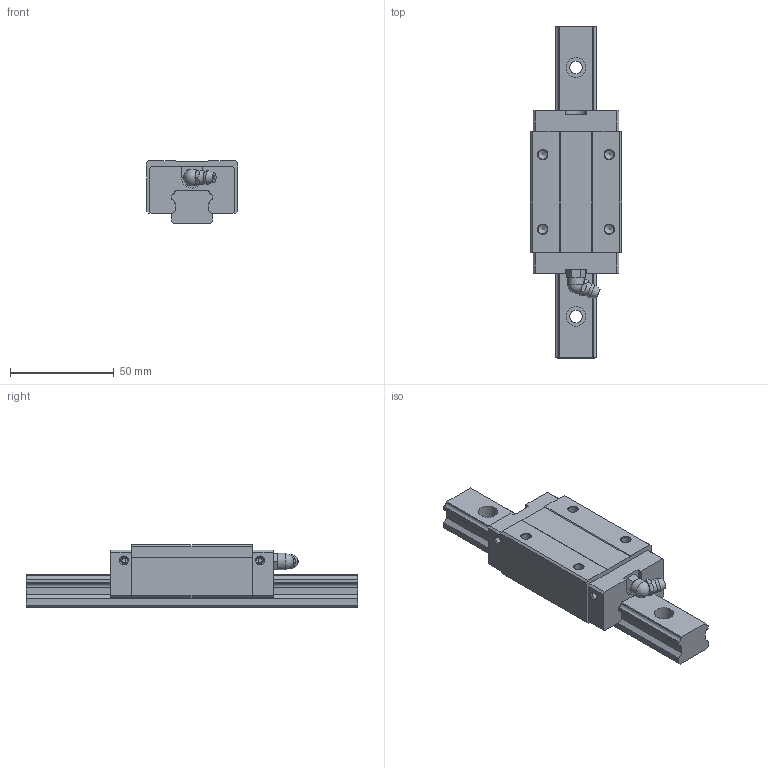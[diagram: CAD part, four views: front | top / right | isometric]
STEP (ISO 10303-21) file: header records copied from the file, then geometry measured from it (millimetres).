
FILE_DESCRIPTION(/* description */ (''),/* implementation_level */ '2;1');
FILE_NAME(/* name */ 'SME20-SA',/* time_stamp */ '2008-10-06T10:18:49+08:00',/* author */ (''),/* organization */ (''),/* preprocessor_version */ 'ST-DEVELOPER v11',/* originating_system */ 'UGS - NX 5.0',/* authorisation */ '');
FILE_SCHEMA (('AUTOMOTIVE_DESIGN { 1 0 10303 214 1 1 1 1 }'));
Length unit declared in the file: millimetre
Products named in the file (1): jillBD1Caliz
Bounding box: 44 x 160 x 30 mm (x, y, z)
Volume: 110598.1 mm3; surface area: 28438.4 mm2
Topology: 3 solids, 3 shells, 164 faces, 425 edges, 280 vertices
Faces by surface type: plane 98, cylinder 43, cone 13, torus 7, sphere 2, bspline 1
Full cylindrical faces by diameter (mm): 2 x4, 3.3 x4, 4.5 x4, 6 x3, 6.5 x2, 8 x1, 9.5 x3
Entity records: 5049 total; most frequent: CARTESIAN_POINT 961, DIRECTION 788, ORIENTED_EDGE 734, EDGE_CURVE 367, AXIS2_PLACEMENT_3D 275, VERTEX_POINT 264, LINE 238, VECTOR 238
